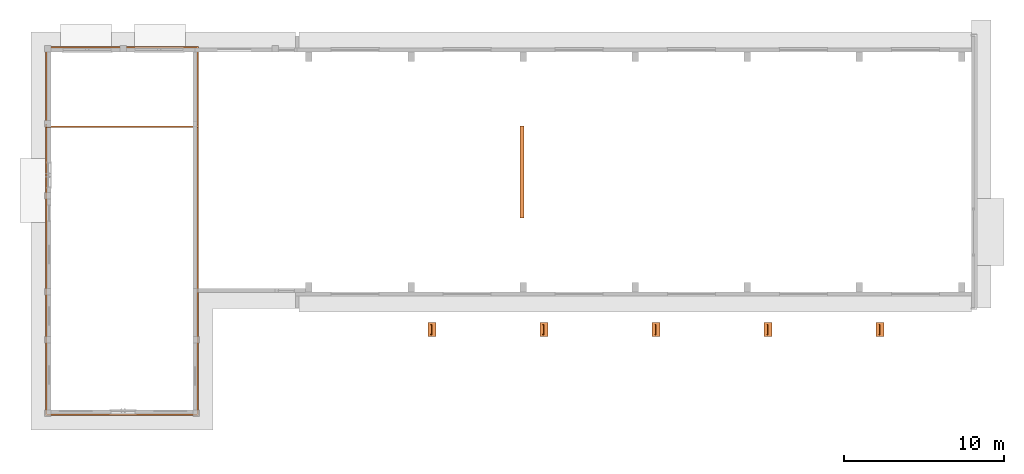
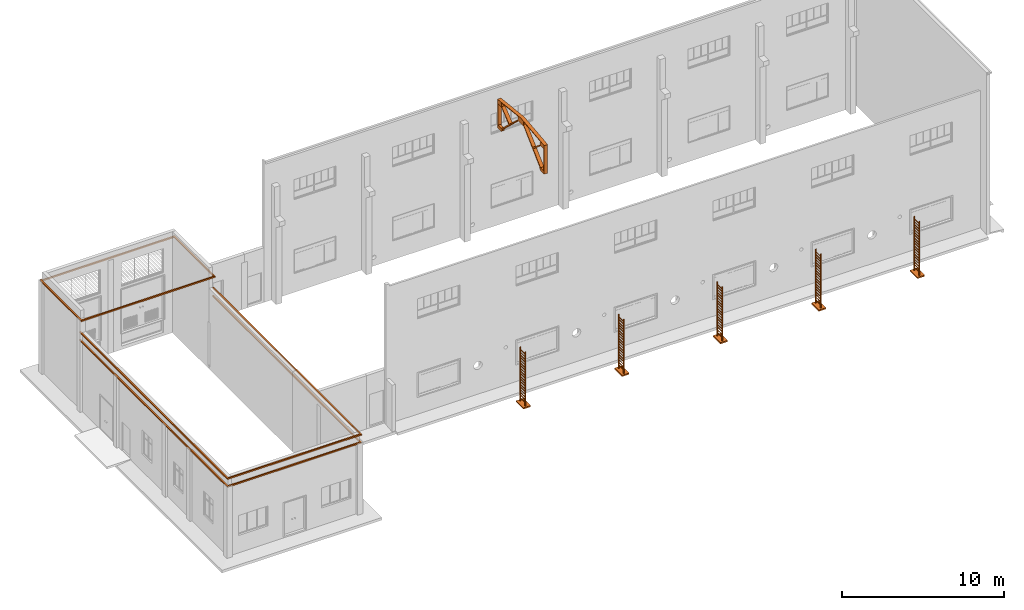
# One storey, part 7 of 8: 9 proxies.
"""IFC2X3 building model written with IfcOpenShell, lengths in millimetres."""

from ifc_helpers import new_model, entity, si_unit, converted_unit, derived_unit, direction, frame, origin, origin_2d_with_axis, place, context, subcontext, project, spatial, polyline, rectangle, outline, extrude, faceted_brep, source, transform, mapped, material, type_object, type_shapes, element, save


model = new_model("IFC2X3")

# Units and contexts
model_context = context("Model", 3, precision=0.01, world=origin(), true_north=direction((6.12303176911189e-17, 1.0)))
body_context = subcontext(model_context, "Body", "Model", "MODEL_VIEW")
ifc_project = project(units=[si_unit("LENGTHUNIT", "METRE", prefix="MILLI"), si_unit("AREAUNIT", "SQUARE_METRE"), si_unit("VOLUMEUNIT", "CUBIC_METRE"), converted_unit("PLANEANGLEUNIT", "DEGREE", entity("IfcRatioMeasure", 0.0174532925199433), si_unit("PLANEANGLEUNIT", "RADIAN"), dimensions=[0, 0, 0, 0, 0, 0, 0]), si_unit("MASSUNIT", "GRAM", prefix="KILO"), derived_unit("MASSDENSITYUNIT", [(si_unit("MASSUNIT", "GRAM", prefix="KILO"), 1), (si_unit("LENGTHUNIT", "METRE"), -3)]), si_unit("TIMEUNIT", "SECOND"), si_unit("FREQUENCYUNIT", "HERTZ"), si_unit("THERMODYNAMICTEMPERATUREUNIT", "DEGREE_CELSIUS"), derived_unit("THERMALTRANSMITTANCEUNIT", [(si_unit("MASSUNIT", "GRAM", prefix="KILO"), 1), (si_unit("THERMODYNAMICTEMPERATUREUNIT", "KELVIN"), -1), (si_unit("TIMEUNIT", "SECOND"), -3)]), derived_unit("VOLUMETRICFLOWRATEUNIT", [(si_unit("LENGTHUNIT", "METRE"), 3), (si_unit("TIMEUNIT", "SECOND"), -1)]), si_unit("ELECTRICCURRENTUNIT", "AMPERE"), si_unit("ELECTRICVOLTAGEUNIT", "VOLT"), si_unit("POWERUNIT", "WATT"), si_unit("FORCEUNIT", "NEWTON", prefix="KILO"), si_unit("ILLUMINANCEUNIT", "LUX"), si_unit("LUMINOUSFLUXUNIT", "LUMEN"), si_unit("LUMINOUSINTENSITYUNIT", "CANDELA"), derived_unit("USERDEFINED", [(si_unit("MASSUNIT", "GRAM", prefix="KILO"), -1), (si_unit("LENGTHUNIT", "METRE"), -2), (si_unit("TIMEUNIT", "SECOND"), 3), (si_unit("LUMINOUSFLUXUNIT", "LUMEN"), 1)]), derived_unit("LINEARVELOCITYUNIT", [(si_unit("LENGTHUNIT", "METRE"), 1), (si_unit("TIMEUNIT", "SECOND"), -1)]), si_unit("PRESSUREUNIT", "PASCAL"), derived_unit("USERDEFINED", [(si_unit("LENGTHUNIT", "METRE"), -2), (si_unit("MASSUNIT", "GRAM", prefix="KILO"), 1), (si_unit("TIMEUNIT", "SECOND"), -2)])], contexts=[model_context])

# Site, building, storey
site_placement = place(None, origin())
site = spatial("IfcSite", under=ifc_project, at=site_placement, Name="表面", CompositionType="ELEMENT")
building_placement = place(site_placement, origin())
building = spatial("IfcBuilding", under=site, at=building_placement, CompositionType="ELEMENT")
storey_placement = place(building_placement, frame((0.0, 0.0, -200.0)))
storey = spatial("IfcBuildingStorey", under=building, at=storey_placement, Name="室外地坪", CompositionType="ELEMENT", Elevation=-200.0)

# Proxies
ifc_material_1 = material(Name="钢材")
building_element_proxy_type_1 = type_object("IfcBuildingElementProxyType", Name="最上层房顶钢架", PredefinedType="NOTDEFINED", material=ifc_material_1)
shared_shape_1 = source(origin(), body_context, "Body", "Brep", [
    faceted_brep([(0.0, -250.0, 2430.07713782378), (2880.0, -250.0, 2101.40054995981), (2880.0, -250.0, 2153.09870565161), (0.0, -250.0, 2481.77529351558), (-2880.0, -250.0, 2153.09870565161), (-2880.0, -250.0, 2101.40054995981), (0.0, -200.0, 2430.07713782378), (327.886284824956, -200.0, 2392.65750403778), (327.886284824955, 0.0, 2392.65750403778), (2425.65510941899, 0.0, 2153.25212230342), (2425.65510941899, -200.0, 2153.25212230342), (2880.0, -200.0, 2101.40054995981), (2880.0, 0.0, 2153.09870565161), (0.0, 0.0, 2481.77529351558), (-2880.0, 0.0, 2153.09870565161), (-2880.0, -200.0, 2101.40054995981), (-2425.65510941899, -200.0, 2153.25212230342), (-2425.65510941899, 0.0, 2153.25212230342), (-327.886284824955, 0.0, 2392.65750403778), (-327.886284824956, -200.0, 2392.65750403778), (2880.0, 0.0, 0.0), (2409.22180214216, 0.0, 0.0), (2321.60421988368, 0.0, 111.252545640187), (2321.60421988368, 0.0, 197.515282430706), (327.886284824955, 0.0, 2095.90744203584), (327.886284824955, 0.0, 2059.45748960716), (-327.886284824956, 0.0, 2059.45748960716), (-327.886284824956, 0.0, 2095.90744203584), (-2328.1514706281, 0.0, 191.281075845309), (-2328.15147062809, 0.0, 102.939164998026), (-2409.22180214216, 0.0, 0.0), (-2880.0, 0.0, 0.0), (-2830.0, 0.0, 1859.04288670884), (-2830.0, 0.0, 220.0), (-2430.0, 0.0, 220.0), (-1509.36639488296, 0.0, 1078.50472557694), (-2407.27283607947, 0.0, 1859.04288670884), (-2358.15147062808, 0.0, 2073.12862037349), (-2358.15147062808, 0.0, 1893.80838376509), (-1435.91686212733, 0.0, 1146.99752294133), (-327.886284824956, 0.0, 2180.25275217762), (2830.0, 0.0, 1859.04288670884), (2407.27283607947, 0.0, 1859.04288670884), (1509.36639488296, 0.0, 1078.50472557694), (2430.0, 0.0, 220.0), (2830.0, 0.0, 220.0), (2358.15147062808, 0.0, 2073.12862037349), (327.886284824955, 0.0, 2180.25275217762), (1435.91686212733, 0.0, 1146.99752294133), (2358.15147062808, 0.0, 1893.80838376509), (-327.886284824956, -200.0, 2180.25275217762), (327.886284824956, -200.0, 2059.45748960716), (327.886284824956, -200.0, 2095.90744203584), (-327.886284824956, -200.0, 2059.45748960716), (208.139562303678, -200.0, 2209.92870611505), (250.56596917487, -200.0, 2252.35511298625), (327.886284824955, -200.0, 2180.25275217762), (-250.56596917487, -200.0, 2252.35511298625), (-208.139562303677, -200.0, 2209.92870611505), (-327.886284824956, -200.0, 2095.90744203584), (2880.0, -200.0, 2076.55913025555), (2880.0, -250.0, 2076.55913025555), (2880.0, -250.0, 0.0), (2358.15147062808, -200.0, 2073.12862037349), (2358.15147062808, -200.0, 1893.80838376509), (2408.42093426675, -200.0, 1934.51579277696), (2448.26226948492, -200.0, 1894.67445755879), (2407.27283607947, -200.0, 1859.04288670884), (2830.0, -200.0, 1859.04288670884), (2830.0, -200.0, 2076.55913025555), (-2409.22180214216, -200.0, 0.0), (-2328.15147062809, -200.0, 102.939164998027), (-2328.15147062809, -200.0, 191.281075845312), (-2399.52603289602, -200.0, 123.319150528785), (-2464.25943882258, -200.0, 188.052556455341), (-2430.0, -200.0, 220.0), (-2830.0, -200.0, 220.0), (-2830.0, -200.0, 0.0), (-2880.0, -250.0, 0.0), (-2880.0, -250.0, 2099.04288670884), (-2880.0, -200.0, 2099.04288670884), (-2830.0, -250.0, 0.0), (-2358.15147062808, -200.0, 2073.12862037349), (-2830.0, -200.0, 2099.04288670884), (-2830.0, -200.0, 1859.04288670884), (-2407.27283607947, -200.0, 1859.04288670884), (-2448.26226948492, -200.0, 1894.67445755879), (-2408.42093426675, -200.0, 1934.51579277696), (-2358.15147062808, -200.0, 1893.80838376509), (2321.60421988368, -200.0, 111.252545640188), (2409.22180214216, -200.0, 0.0), (2830.0, -200.0, 0.0), (2830.0, -200.0, 220.0), (2430.0, -200.0, 220.0), (2464.25943882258, -200.0, 188.05255645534), (2399.52603289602, -200.0, 123.319150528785), (2321.60421988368, -200.0, 197.515282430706), (2830.0, -250.0, 0.0), (-2830.0, -250.0, 2099.04288670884), (2830.0, -250.0, 2076.55913025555), (-2464.25943882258, -250.0, 188.052556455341), (-2399.52603289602, -250.0, 123.319150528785), (-208.139562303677, -250.0, 2209.92870611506), (-250.565969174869, -250.0, 2252.35511298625), (-1435.91686212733, -250.0, 1146.99752294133), (-2408.42093426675, -250.0, 1934.51579277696), (-2448.26226948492, -250.0, 1894.67445755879), (-1509.36639488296, -250.0, 1078.50472557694), (250.56596917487, -250.0, 2252.35511298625), (208.139562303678, -250.0, 2209.92870611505), (2399.52603289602, -250.0, 123.319150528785), (2464.25943882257, -250.0, 188.052556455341), (1509.36639488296, -250.0, 1078.50472557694), (2448.26226948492, -250.0, 1894.67445755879), (2408.42093426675, -250.0, 1934.51579277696), (1435.91686212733, -250.0, 1146.99752294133)], [[[0, 1, 2, 3, 4, 5]], [[1, 0, 6, 7, 8, 9, 10, 11]], [[3, 2, 12, 13]], [[4, 3, 13, 14]], [[0, 5, 15, 16, 17, 18, 19, 6]], [[13, 12, 20, 21, 22, 23, 24, 25, 26, 27, 28, 29, 30, 31, 14], [32, 33, 34, 35, 36], [17, 37, 38, 39, 40, 18], [41, 42, 43, 44, 45], [46, 9, 8, 47, 48, 49]], [[19, 18, 40, 50]], [[51, 25, 24, 52]], [[53, 51, 52, 54, 55, 56, 7, 6, 19, 50, 57, 58, 59]], [[2, 1, 11, 60, 61, 62, 20, 12]], [[10, 63, 64, 65, 66, 67, 68, 69, 60, 11]], [[46, 63, 10, 9]], [[63, 46, 49, 64]], [[41, 68, 67, 42]], [[70, 71, 72, 73, 74, 75, 76, 77]], [[33, 76, 75, 34]], [[5, 4, 14, 31, 78, 79, 80, 15]], [[30, 70, 77, 81, 78, 31]], [[71, 70, 30, 29]], [[71, 29, 28, 72]], [[82, 16, 15, 80, 83, 84, 85, 86, 87, 88]], [[84, 32, 36, 85]], [[37, 82, 88, 38]], [[82, 37, 17, 16]], [[51, 53, 26, 25]], [[89, 90, 91, 92, 93, 94, 95, 96]], [[22, 89, 96, 23]], [[90, 89, 22, 21]], [[90, 21, 20, 62, 97, 91]], [[92, 45, 44, 93]], [[98, 79, 78, 81]], [[79, 98, 83, 80]], [[98, 81, 77, 76, 33, 32, 84, 83]], [[99, 97, 62, 61]], [[97, 99, 69, 68, 41, 45, 92, 91]], [[99, 61, 60, 69]], [[100, 101, 102, 103, 104, 105, 106, 107]], [[103, 57, 50, 40, 39, 104]], [[101, 100, 74, 73]], [[102, 101, 73, 72, 28, 27, 59, 58]], [[103, 102, 58, 57]], [[105, 104, 39, 38, 88, 87]], [[106, 105, 87, 86]], [[107, 106, 86, 85, 36, 35]], [[108, 109, 110, 111, 112, 113, 114, 115]], [[109, 108, 55, 54]], [[110, 109, 54, 52, 24, 23, 96, 95]], [[111, 110, 95, 94]], [[55, 108, 115, 48, 47, 56]], [[113, 112, 43, 42, 67, 66]], [[114, 113, 66, 65]], [[115, 114, 65, 64, 49, 48]], [[111, 94, 93, 44, 43, 112]], [[74, 100, 107, 35, 34, 75]], [[8, 7, 56, 47]], [[26, 53, 59, 27]]]),
])
type_shapes(building_element_proxy_type_1, [shared_shape_1])
proxy_1_placement = place(storey_placement, frame((-18228.7987814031, 8109.69440753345, 11044.2315490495), z_axis=(0.0, 0.0, 1.0), x_axis=(0.0, 1.0, 0.0)))
element("IfcBuildingElementProxy", 1, at=proxy_1_placement, inside=storey, type_object=building_element_proxy_type_1, material=ifc_material_1, Name="最上层房顶钢架:最上层房顶钢架", ObjectType="最上层房顶钢架", context=body_context, shape_type="MappedRepresentation", body=[
    mapped(shared_shape_1, transform((0.0, 0.0, 0.0), scale=1.0)),
])
ifc_material_2 = material(Name="彩钢")
building_element_proxy_type_2 = type_object("IfcBuildingElementProxyType", Name="直梯", PredefinedType="NOTDEFINED", material=ifc_material_2)
shared_shape_2 = source(origin(), body_context, "Body", "SweptSolid", [
    extrude(rectangle(XDim=560.0, YDim=38.1000000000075, at=origin_2d_with_axis()), frame((-10.0, 19.050000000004, 3609.08021360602), z_axis=(0.0, 0.0, 1.0), x_axis=(-1.0, 0.0, 0.0)), (0.0, 0.0, 1.0), 49.9999999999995),
    extrude(rectangle(XDim=560.0, YDim=38.1000000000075, at=origin_2d_with_axis()), frame((-10.0, 19.050000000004, 3408.18137751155), z_axis=(0.0, 0.0, 1.0), x_axis=(-1.0, 0.0, 0.0)), (0.0, 0.0, 1.0), 49.9999999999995),
    extrude(rectangle(XDim=560.0, YDim=38.1000000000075, at=origin_2d_with_axis()), frame((-10.0, 19.050000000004, 3207.28254141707), z_axis=(0.0, 0.0, 1.0), x_axis=(-1.0, 0.0, 0.0)), (0.0, 0.0, 1.0), 49.9999999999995),
    extrude(rectangle(XDim=560.0, YDim=38.1000000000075, at=origin_2d_with_axis()), frame((-10.0, 19.050000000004, 3006.3837053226), z_axis=(0.0, 0.0, 1.0), x_axis=(-1.0, 0.0, 0.0)), (0.0, 0.0, 1.0), 49.9999999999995),
    extrude(rectangle(XDim=560.0, YDim=38.1000000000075, at=origin_2d_with_axis()), frame((-10.0, 19.050000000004, 2805.48486922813), z_axis=(0.0, 0.0, 1.0), x_axis=(-1.0, 0.0, 0.0)), (0.0, 0.0, 1.0), 49.9999999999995),
    extrude(rectangle(XDim=560.0, YDim=38.1000000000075, at=origin_2d_with_axis()), frame((-10.0, 19.050000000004, 2604.58603313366), z_axis=(0.0, 0.0, 1.0), x_axis=(-1.0, 0.0, 0.0)), (0.0, 0.0, 1.0), 49.9999999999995),
    extrude(rectangle(XDim=560.0, YDim=38.1000000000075, at=origin_2d_with_axis()), frame((-10.0, 19.050000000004, 2403.68719703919), z_axis=(0.0, 0.0, 1.0), x_axis=(-1.0, 0.0, 0.0)), (0.0, 0.0, 1.0), 49.9999999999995),
    extrude(rectangle(XDim=560.0, YDim=38.1000000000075, at=origin_2d_with_axis()), frame((-10.0, 19.050000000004, 2202.78836094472), z_axis=(0.0, 0.0, 1.0), x_axis=(-1.0, 0.0, 0.0)), (0.0, 0.0, 1.0), 49.9999999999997),
    extrude(rectangle(XDim=560.0, YDim=38.1000000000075, at=origin_2d_with_axis()), frame((-10.0, 19.050000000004, 2001.88952485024), z_axis=(0.0, 0.0, 1.0), x_axis=(-1.0, 0.0, 0.0)), (0.0, 0.0, 1.0), 49.9999999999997),
    extrude(rectangle(XDim=560.0, YDim=38.1000000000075, at=origin_2d_with_axis()), frame((-10.0, 19.050000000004, 1800.99068875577), z_axis=(0.0, 0.0, 1.0), x_axis=(-1.0, 0.0, 0.0)), (0.0, 0.0, 1.0), 49.9999999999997),
    extrude(rectangle(XDim=560.0, YDim=38.1000000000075, at=origin_2d_with_axis()), frame((-10.0, 19.050000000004, 1600.0918526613), z_axis=(0.0, 0.0, 1.0), x_axis=(-1.0, 0.0, 0.0)), (0.0, 0.0, 1.0), 49.9999999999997),
    extrude(rectangle(XDim=560.0, YDim=38.1000000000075, at=origin_2d_with_axis()), frame((-10.0, 19.050000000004, 1399.19301656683), z_axis=(0.0, 0.0, 1.0), x_axis=(-1.0, 0.0, 0.0)), (0.0, 0.0, 1.0), 49.9999999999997),
    extrude(rectangle(XDim=560.0, YDim=38.1000000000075, at=origin_2d_with_axis()), frame((-10.0, 19.050000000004, 1198.29418047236), z_axis=(0.0, 0.0, 1.0), x_axis=(-1.0, 0.0, 0.0)), (0.0, 0.0, 1.0), 49.9999999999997),
    extrude(rectangle(XDim=560.0, YDim=38.1000000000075, at=origin_2d_with_axis()), frame((-10.0, 19.050000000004, 997.395344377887), z_axis=(0.0, 0.0, 1.0), x_axis=(-1.0, 0.0, 0.0)), (0.0, 0.0, 1.0), 49.9999999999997),
    extrude(rectangle(XDim=560.0, YDim=38.1000000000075, at=origin_2d_with_axis()), frame((-10.0, 19.050000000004, 796.496508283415), z_axis=(0.0, 0.0, 1.0), x_axis=(-1.0, 0.0, 0.0)), (0.0, 0.0, 1.0), 49.9999999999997),
    extrude(rectangle(XDim=560.0, YDim=38.1000000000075, at=origin_2d_with_axis()), frame((-10.0, 19.050000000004, 595.597672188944), z_axis=(0.0, 0.0, 1.0), x_axis=(-1.0, 0.0, 0.0)), (0.0, 0.0, 1.0), 49.9999999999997),
    extrude(rectangle(XDim=560.0, YDim=38.1000000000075, at=origin_2d_with_axis()), frame((-10.0, 19.050000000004, 394.698836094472), z_axis=(0.0, 0.0, 1.0), x_axis=(-1.0, 0.0, 0.0)), (0.0, 0.0, 1.0), 49.9999999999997),
    extrude(rectangle(XDim=560.0, YDim=38.1000000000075, at=origin_2d_with_axis()), frame((-10.0, 19.050000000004, 3809.97904970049), z_axis=(0.0, 0.0, 1.0), x_axis=(-1.0, 0.0, 0.0)), (0.0, 0.0, 1.0), 49.9999999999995),
    extrude(rectangle(XDim=560.0, YDim=38.1000000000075, at=origin_2d_with_axis()), frame((-10.0, 19.050000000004, 193.800000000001), z_axis=(0.0, 0.0, 1.0), x_axis=(-1.0, 0.0, 0.0)), (0.0, 0.0, 1.0), 49.9999999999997),
    extrude(rectangle(XDim=900.0, YDim=513.751029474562, at=origin_2d_with_axis()), frame((-10.0, 0.0, -100.0), z_axis=(0.0, 0.0, 1.0), x_axis=(-1.0, 0.0, 0.0)), (0.0, 0.0, 1.0), 100.0),
    extrude(rectangle(XDim=80.0, YDim=49.9999999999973, at=origin_2d_with_axis()), frame((295.0, 40.0, 0.0), z_axis=(0.0, 0.0, 1.0), x_axis=(0.0, 1.0, 0.0)), (0.0, 0.0, 1.0), 4053.77904970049),
    extrude(rectangle(XDim=80.0, YDim=50.0000000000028, at=origin_2d_with_axis()), frame((-315.0, 40.0, 0.0), z_axis=(0.0, 0.0, 1.0), x_axis=(0.0, 1.0, 0.0)), (0.0, 0.0, 1.0), 4053.77904970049),
])
type_shapes(building_element_proxy_type_2, [shared_shape_2])
for number, where, z_axis, x_axis in (
    (2, (-23728.7987814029, -1730.09994881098, 0.0), (0.0, 0.0, 1.0), (0.0, 1.0, 0.0)),
    (3, (-16728.7987814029, -1730.09994881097, 0.0), (0.0, 0.0, 1.0), (0.0, 1.0, 0.0)),
    (4, (-9728.7987814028, -1730.09994881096, 0.0), (0.0, 0.0, 1.0), (0.0, 1.0, 0.0)),
    (5, (-2728.79878140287, -1730.09994881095, 0.0), (0.0, 0.0, 1.0), (0.0, 1.0, 0.0)),
    (6, (4271.20121859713, -1730.09994881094, 0.0), (0.0, 0.0, 1.0), (0.0, 1.0, 0.0)),
):
    element("IfcBuildingElementProxy", number, at=place(storey_placement, frame(where, z_axis=z_axis, x_axis=x_axis)), inside=storey, type_object=building_element_proxy_type_2, material=ifc_material_2, Name="直梯:直梯", ObjectType="直梯", context=body_context, shape_type="MappedRepresentation", body=[
        mapped(shared_shape_2, transform((0.0, 0.0, 0.0), scale=1.0)),
    ])
proxy_2_placement = place(storey_placement, origin())
element("IfcBuildingElementProxy", 7, at=proxy_2_placement, inside=storey, Name="墙饰条:压顶", ObjectType="墙饰条:压顶", context=body_context, shape_type="SweptSolid", body=[
    extrude(outline(polyline([(-4780.0, -50.0), (4780.0, -50.0), (4680.0, 50.0), (-4680.0, 50.0), (-4780.0, -50.0)])), frame((-43088.798781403, -7060.30259261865, 5350.0)), (0.0, 0.0, 1.0), 100.0),
    extrude(outline(polyline([(-9035.0, -50.0), (9085.0, -50.0), (9085.0, 50.0), (-9135.0, 50.0), (-9035.0, -50.0)])), frame((-47818.7987814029, 2024.69740738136, 5350.0), z_axis=(0.0, 0.0, 1.0), x_axis=(0.0, 1.0, 0.0)), (0.0, 0.0, 1.0), 100.0),
    extrude(outline(polyline([(-3925.0, -50.0), (3875.0, -50.0), (3875.0, 50.0), (-3825.0, 50.0), (-3925.0, -50.0)])), frame((-38358.798781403, -3185.30259261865, 5350.0), z_axis=(0.0, 0.0, 1.0), x_axis=(0.0, 1.0, 0.0)), (0.0, 0.0, 1.0), 100.0),
    extrude(rectangle(XDim=10420.0, YDim=100.000000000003, at=origin_2d_with_axis()), frame((-38358.798781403, 5899.69740738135, 5350.0), z_axis=(0.0, 0.0, 1.0), x_axis=(0.0, 1.0, 0.0)), (0.0, 0.0, 1.0), 100.0),
])
proxy_3_placement = place(storey_placement, origin())
element("IfcBuildingElementProxy", 8, at=proxy_3_placement, inside=storey, Name="墙饰条:压顶", ObjectType="墙饰条:压顶", context=body_context, shape_type="SweptSolid", body=[
    extrude(outline(polyline([(-9035.0, -50.0), (9085.0, -50.0), (9085.0, 50.0), (-9135.0, 50.0), (-9035.0, -50.0)])), frame((-47818.7987814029, 2024.69740738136, 5950.0), z_axis=(0.0, 0.0, 1.0), x_axis=(0.0, 1.0, 0.0)), (0.0, 0.0, 1.0), 100.0),
    extrude(outline(polyline([(-4780.0, -50.0), (4780.0, -50.0), (4680.0, 50.0), (-4680.0, 50.0), (-4780.0, -50.0)])), frame((-43088.798781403, -7060.30259261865, 5950.0)), (0.0, 0.0, 1.0), 100.0),
    extrude(outline(polyline([(-3925.0, -50.0), (3875.0, -50.0), (3875.0, 50.0), (-3825.0, 50.0), (-3925.0, -50.0)])), frame((-38358.798781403, -3185.30259261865, 5950.0), z_axis=(0.0, 0.0, 1.0), x_axis=(0.0, 1.0, 0.0)), (0.0, 0.0, 1.0), 100.0),
    extrude(rectangle(XDim=10420.0, YDim=100.000000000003, at=origin_2d_with_axis()), frame((-38358.798781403, 5899.69740738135, 5950.0), z_axis=(0.0, 0.0, 1.0), x_axis=(0.0, 1.0, 0.0)), (0.0, 0.0, 1.0), 100.0),
])
proxy_4_placement = place(storey_placement, origin())
element("IfcBuildingElementProxy", 9, at=proxy_4_placement, inside=storey, Name="墙饰条:压顶", ObjectType="墙饰条:压顶", context=body_context, shape_type="SweptSolid", body=[
    extrude(outline(polyline([(-2430.0, -50.0), (2430.0, -50.0), (2530.0, 50.0), (-2530.0, 50.0), (-2430.0, -50.0)])), frame((-47818.7987814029, 13419.6974073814, 6890.0), z_axis=(0.0, 0.0, 1.0), x_axis=(0.0, 1.0, 0.0)), (0.0, 0.0, 1.0), 100.0),
    extrude(outline(polyline([(-4780.0, -50.0), (4780.0, -50.0), (4680.0, 50.0), (-4680.0, 50.0), (-4780.0, -50.0)])), frame((-43088.798781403, 10939.6974073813, 6890.0)), (0.0, 0.0, 1.0), 100.0),
    extrude(outline(polyline([(-4680.0, -50.0), (4680.0, -50.0), (4780.0, 50.0), (-4780.0, 50.0), (-4680.0, -50.0)])), frame((-43088.798781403, 15899.6974073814, 6890.0)), (0.0, 0.0, 1.0), 100.0),
    extrude(outline(polyline([(-2530.0, -50.0), (2530.0, -50.0), (2430.0, 50.0), (-2430.0, 50.0), (-2530.0, -50.0)])), frame((-38358.798781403, 13419.6974073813, 6890.0), z_axis=(0.0, 0.0, 1.0), x_axis=(0.0, 1.0, 0.0)), (0.0, 0.0, 1.0), 100.0),
])

save(model, "model.ifc")
